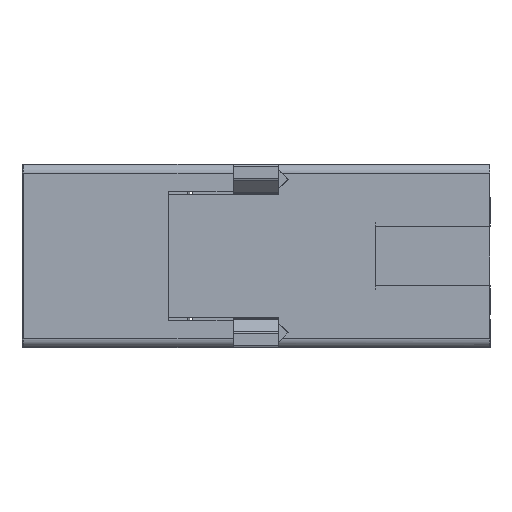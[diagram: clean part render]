
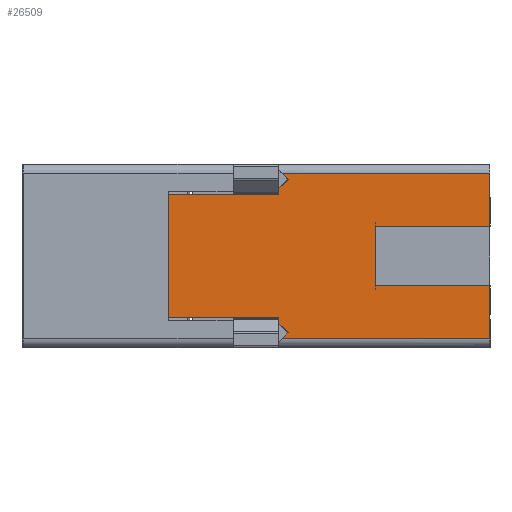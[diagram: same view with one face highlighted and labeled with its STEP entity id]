
A CAD part, left-side view. The second image highlights one B-rep face of the part: STEP entity #26509.
In plain terms, the highlighted planar face has unit normal (-1, 0, 0).
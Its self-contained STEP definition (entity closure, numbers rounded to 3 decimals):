
#447 = EDGE_CURVE ( 'NONE', #60088, #28664, #77714, .T. ) ;
#1553 = VERTEX_POINT ( 'NONE', #49657 ) ;
#2060 = ORIENTED_EDGE ( 'NONE', *, *, #5015, .F. ) ;
#2151 = CARTESIAN_POINT ( 'NONE',  ( -122.5, 4.5, 8.375 ) ) ;
#2436 = EDGE_CURVE ( 'NONE', #25154, #36037, #60093, .T. ) ;
#2600 = DIRECTION ( 'NONE',  ( 0., -0.707, 0.707 ) ) ;
#3258 = LINE ( 'NONE', #17835, #50716 ) ;
#3757 = EDGE_CURVE ( 'NONE', #25154, #10330, #17903, .T. ) ;
#3920 = DIRECTION ( 'NONE',  ( 0., 1., 0. ) ) ;
#4015 = CARTESIAN_POINT ( 'NONE',  ( -122.5, 4.5, 8.375 ) ) ;
#4338 = DIRECTION ( 'NONE',  ( 0., 0., -1. ) ) ;
#4521 = CARTESIAN_POINT ( 'NONE',  ( -122.5, 5.5, 6.75 ) ) ;
#5015 = EDGE_CURVE ( 'NONE', #56374, #63086, #3258, .T. ) ;
#5143 = EDGE_CURVE ( 'NONE', #52052, #60088, #50635, .T. ) ;
#5676 = EDGE_CURVE ( 'NONE', #39946, #52052, #68854, .T. ) ;
#6836 = FACE_OUTER_BOUND ( 'NONE', #10791, .T. ) ;
#7127 = EDGE_CURVE ( 'NONE', #63086, #56637, #54202, .T. ) ;
#7822 = CARTESIAN_POINT ( 'NONE',  ( -122.5, -5., -3.25 ) ) ;
#8166 = ORIENTED_EDGE ( 'NONE', *, *, #24878, .T. ) ;
#8242 = ORIENTED_EDGE ( 'NONE', *, *, #447, .F. ) ;
#8247 = ORIENTED_EDGE ( 'NONE', *, *, #30011, .F. ) ;
#9964 = CARTESIAN_POINT ( 'NONE',  ( -122.5, 17.5, 10. ) ) ;
#10330 = VERTEX_POINT ( 'NONE', #4015 ) ;
#10791 = EDGE_LOOP ( 'NONE', ( #8247, #8166, #8242, #46076, #56942, #40190, #37662, #64346, #56550, #52737, #45318, #70850, #67272, #45500, #31064, #2060 ) ) ;
#13401 = DIRECTION ( 'NONE',  ( 0., -1., 0. ) ) ;
#13519 = CARTESIAN_POINT ( 'NONE',  ( -122.5, 17.5, -6.75 ) ) ;
#14975 = LINE ( 'NONE', #78644, #56660 ) ;
#15592 = CARTESIAN_POINT ( 'NONE',  ( -122.5, 17.5, -6.75 ) ) ;
#15935 = VECTOR ( 'NONE', #2600, 1000. ) ;
#17835 = CARTESIAN_POINT ( 'NONE',  ( -122.5, 5.125, -9. ) ) ;
#17903 = LINE ( 'NONE', #21756, #15935 ) ;
#18496 = LINE ( 'NONE', #39918, #51464 ) ;
#18764 = DIRECTION ( 'NONE',  ( 0., 0., -1. ) ) ;
#18782 = CARTESIAN_POINT ( 'NONE',  ( -122.5, 5.125, 9. ) ) ;
#21756 = CARTESIAN_POINT ( 'NONE',  ( -122.5, 5.5, 7.375 ) ) ;
#21980 = LINE ( 'NONE', #48714, #33641 ) ;
#22131 = DIRECTION ( 'NONE',  ( 0., 0.707, 0.707 ) ) ;
#22500 = VECTOR ( 'NONE', #50790, 1000. ) ;
#23384 = AXIS2_PLACEMENT_3D ( 'NONE', #9964, #27857, #4338 ) ;
#23520 = DIRECTION ( 'NONE',  ( 0., -1., 0. ) ) ;
#24287 = VERTEX_POINT ( 'NONE', #62714 ) ;
#24335 = DIRECTION ( 'NONE',  ( 0., -0.707, 0.707 ) ) ;
#24878 = EDGE_CURVE ( 'NONE', #60396, #28664, #62160, .T. ) ;
#25154 = VERTEX_POINT ( 'NONE', #37459 ) ;
#25925 = CARTESIAN_POINT ( 'NONE',  ( -122.5, -5., 10. ) ) ;
#26452 = DIRECTION ( 'NONE',  ( 0., 0., -1. ) ) ;
#26509 = ADVANCED_FACE ( 'NONE', ( #6836 ), #47089, .F. ) ;
#27502 = VECTOR ( 'NONE', #37639, 1000. ) ;
#27750 = LINE ( 'NONE', #75343, #35525 ) ;
#27857 = DIRECTION ( 'NONE',  ( 1., 0., 0. ) ) ;
#28185 = VECTOR ( 'NONE', #18764, 1000. ) ;
#28664 = VERTEX_POINT ( 'NONE', #70977 ) ;
#30011 = EDGE_CURVE ( 'NONE', #60396, #56374, #21980, .T. ) ;
#31064 = ORIENTED_EDGE ( 'NONE', *, *, #7127, .F. ) ;
#32622 = VECTOR ( 'NONE', #13401, 1000. ) ;
#33305 = VERTEX_POINT ( 'NONE', #40407 ) ;
#33641 = VECTOR ( 'NONE', #73770, 1000. ) ;
#34056 = VECTOR ( 'NONE', #3920, 1000. ) ;
#35525 = VECTOR ( 'NONE', #26452, 1000. ) ;
#35970 = VECTOR ( 'NONE', #52460, 1000. ) ;
#36037 = VERTEX_POINT ( 'NONE', #4521 ) ;
#36164 = LINE ( 'NONE', #13519, #78631 ) ;
#36435 = EDGE_CURVE ( 'NONE', #24287, #36037, #42286, .T. ) ;
#37459 = CARTESIAN_POINT ( 'NONE',  ( -122.5, 5.5, 7.375 ) ) ;
#37639 = DIRECTION ( 'NONE',  ( 0., 0., 1. ) ) ;
#37662 = ORIENTED_EDGE ( 'NONE', *, *, #41125, .F. ) ;
#39478 = DIRECTION ( 'NONE',  ( 0., 1., 0. ) ) ;
#39918 = CARTESIAN_POINT ( 'NONE',  ( -122.5, 17.5, 9. ) ) ;
#39946 = VERTEX_POINT ( 'NONE', #63439 ) ;
#40190 = ORIENTED_EDGE ( 'NONE', *, *, #62565, .T. ) ;
#40407 = CARTESIAN_POINT ( 'NONE',  ( -122.5, 5.5, -6.75 ) ) ;
#41125 = EDGE_CURVE ( 'NONE', #62280, #1553, #18496, .T. ) ;
#42074 = EDGE_CURVE ( 'NONE', #49875, #24287, #43964, .T. ) ;
#42286 = LINE ( 'NONE', #75841, #32622 ) ;
#43964 = LINE ( 'NONE', #56608, #27502 ) ;
#44527 = CARTESIAN_POINT ( 'NONE',  ( -122.5, -17.5, 10. ) ) ;
#45318 = ORIENTED_EDGE ( 'NONE', *, *, #36435, .F. ) ;
#45500 = ORIENTED_EDGE ( 'NONE', *, *, #73911, .T. ) ;
#46076 = ORIENTED_EDGE ( 'NONE', *, *, #5143, .F. ) ;
#47089 = PLANE ( 'NONE',  #23384 ) ;
#48714 = CARTESIAN_POINT ( 'NONE',  ( -122.5, 17.5, -9. ) ) ;
#49657 = CARTESIAN_POINT ( 'NONE',  ( -122.5, -17.5, 9. ) ) ;
#49753 = VECTOR ( 'NONE', #23520, 1000. ) ;
#49775 = DIRECTION ( 'NONE',  ( 0., 0., -1. ) ) ;
#49875 = VERTEX_POINT ( 'NONE', #15592 ) ;
#50635 = LINE ( 'NONE', #25925, #77580 ) ;
#50716 = VECTOR ( 'NONE', #24335, 1000. ) ;
#50790 = DIRECTION ( 'NONE',  ( 0., 0., 1. ) ) ;
#51464 = VECTOR ( 'NONE', #58364, 1000. ) ;
#52052 = VERTEX_POINT ( 'NONE', #65933 ) ;
#52460 = DIRECTION ( 'NONE',  ( 0., 0.707, 0.707 ) ) ;
#52737 = ORIENTED_EDGE ( 'NONE', *, *, #2436, .T. ) ;
#54202 = LINE ( 'NONE', #59216, #68621 ) ;
#55955 = EDGE_CURVE ( 'NONE', #10330, #62280, #71660, .T. ) ;
#56374 = VERTEX_POINT ( 'NONE', #64100 ) ;
#56550 = ORIENTED_EDGE ( 'NONE', *, *, #3757, .F. ) ;
#56608 = CARTESIAN_POINT ( 'NONE',  ( -122.5, 17.5, 10. ) ) ;
#56637 = VERTEX_POINT ( 'NONE', #66738 ) ;
#56660 = VECTOR ( 'NONE', #78112, 1000. ) ;
#56942 = ORIENTED_EDGE ( 'NONE', *, *, #5676, .F. ) ;
#58364 = DIRECTION ( 'NONE',  ( 0., -1., 0. ) ) ;
#59216 = CARTESIAN_POINT ( 'NONE',  ( -122.5, 4.5, -8.375 ) ) ;
#59695 = CARTESIAN_POINT ( 'NONE',  ( -122.5, -17.5, -9. ) ) ;
#60088 = VERTEX_POINT ( 'NONE', #7822 ) ;
#60093 = LINE ( 'NONE', #68997, #28185 ) ;
#60396 = VERTEX_POINT ( 'NONE', #59695 ) ;
#61377 = CARTESIAN_POINT ( 'NONE',  ( -122.5, 17.5, -3.25 ) ) ;
#62160 = LINE ( 'NONE', #44527, #22500 ) ;
#62280 = VERTEX_POINT ( 'NONE', #18782 ) ;
#62565 = EDGE_CURVE ( 'NONE', #39946, #1553, #14975, .T. ) ;
#62714 = CARTESIAN_POINT ( 'NONE',  ( -122.5, 17.5, 6.75 ) ) ;
#63086 = VERTEX_POINT ( 'NONE', #78025 ) ;
#63439 = CARTESIAN_POINT ( 'NONE',  ( -122.5, -17.5, 3.25 ) ) ;
#64100 = CARTESIAN_POINT ( 'NONE',  ( -122.5, 5.125, -9. ) ) ;
#64346 = ORIENTED_EDGE ( 'NONE', *, *, #55955, .F. ) ;
#65933 = CARTESIAN_POINT ( 'NONE',  ( -122.5, -5., 3.25 ) ) ;
#66738 = CARTESIAN_POINT ( 'NONE',  ( -122.5, 5.5, -7.375 ) ) ;
#67272 = ORIENTED_EDGE ( 'NONE', *, *, #71878, .F. ) ;
#68621 = VECTOR ( 'NONE', #22131, 1000. ) ;
#68854 = LINE ( 'NONE', #77661, #34056 ) ;
#68997 = CARTESIAN_POINT ( 'NONE',  ( -122.5, 5.5, 10. ) ) ;
#70850 = ORIENTED_EDGE ( 'NONE', *, *, #42074, .F. ) ;
#70977 = CARTESIAN_POINT ( 'NONE',  ( -122.5, -17.5, -3.25 ) ) ;
#71660 = LINE ( 'NONE', #2151, #35970 ) ;
#71878 = EDGE_CURVE ( 'NONE', #33305, #49875, #36164, .T. ) ;
#73770 = DIRECTION ( 'NONE',  ( 0., 1., 0. ) ) ;
#73911 = EDGE_CURVE ( 'NONE', #33305, #56637, #27750, .T. ) ;
#75343 = CARTESIAN_POINT ( 'NONE',  ( -122.5, 5.5, 10. ) ) ;
#75841 = CARTESIAN_POINT ( 'NONE',  ( -122.5, 17.5, 6.75 ) ) ;
#77580 = VECTOR ( 'NONE', #49775, 1000. ) ;
#77661 = CARTESIAN_POINT ( 'NONE',  ( -122.5, 17.5, 3.25 ) ) ;
#77714 = LINE ( 'NONE', #61377, #49753 ) ;
#78025 = CARTESIAN_POINT ( 'NONE',  ( -122.5, 4.5, -8.375 ) ) ;
#78112 = DIRECTION ( 'NONE',  ( 0., 0., 1. ) ) ;
#78631 = VECTOR ( 'NONE', #39478, 1000. ) ;
#78644 = CARTESIAN_POINT ( 'NONE',  ( -122.5, -17.5, 10. ) ) ;
